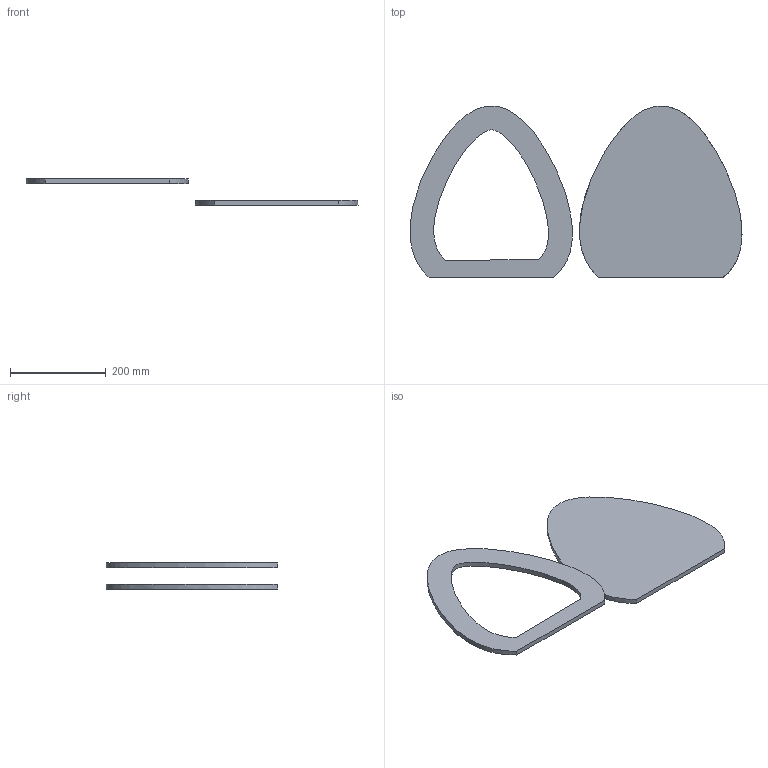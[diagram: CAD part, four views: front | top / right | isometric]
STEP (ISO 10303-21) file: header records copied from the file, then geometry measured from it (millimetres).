
FILE_DESCRIPTION(/* description */ (''),/* implementation_level */ '2;1');
FILE_NAME(/* name */ 'C:/Users/admin/Desktop/seat cover top v9.step',/* time_stamp */ '2020-10-23T16:02:00+06:00',/* author */ (''),/* organization */ (''),/* preprocessor_version */ 'ST-DEVELOPER v18.1',/* originating_system */ 'Autodesk Translation Framework v9.3.0.1241',/* authorisation */ '');
FILE_SCHEMA (('AUTOMOTIVE_DESIGN { 1 0 10303 214 3 1 1 }'));
Length unit declared in the file: millimetre
Products named in the file (1): seat cover top
Bounding box: 695.08 x 359.82 x 55 mm (x, y, z)
Volume: 1416503.3 mm3; surface area: 317464.5 mm2
Topology: 2 solids, 2 shells, 10 faces, 18 edges, 12 vertices
Faces by surface type: plane 7, bspline 3
Entity records: 812 total; most frequent: CARTESIAN_POINT 580, ORIENTED_EDGE 36, DIRECTION 28, EDGE_CURVE 18, EDGE_LOOP 12, LINE 12, VECTOR 12, VERTEX_POINT 12
